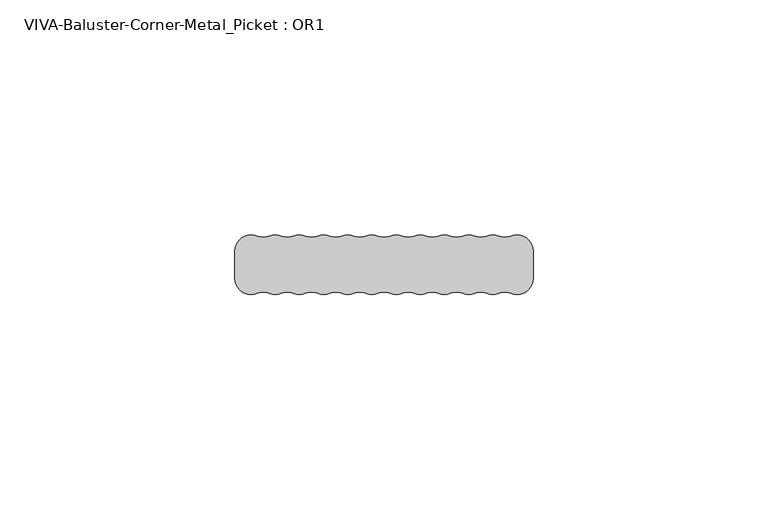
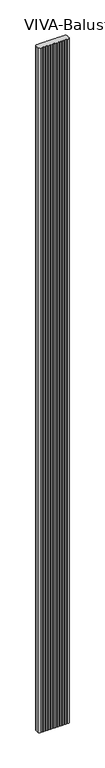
"""IFC4 building model written with IfcOpenShell, lengths in millimetres: railing geometry, VIVA-Baluster-Corner-Metal_Picket : OR1."""

from ifc_helpers import new_model, si_unit, frame, origin, place, context, project, spatial, polyline, circle_curve, source, transform, mapped, element, save
from ifc_brep_helpers import plane_surface, cylinder_surface, revolved_surface, advanced_brep


def viva_baluster_corner_metal_picket_or1_06276dca(model_context):
    return source(origin(), model_context, "Body", "AdvancedBrep", [
        advanced_brep(
        [(51.9173652, 187.4424232, 1219.2), (49.3434933, 187.4424232, 1219.2), (46.7696213, 187.4424232, 1219.2), (44.1957493, 187.4424232, 1219.2), (41.6218774, 187.4424232, 1219.2), (39.0480054, 187.4424232, 1219.2), (36.4741335, 187.4424232, 1219.2), (33.9002615, 187.4424232, 1219.2), (31.3263895, 187.4424232, 1219.2), (28.7525176, 187.4424232, 1219.2), (26.1786456, 187.4424232, 1219.2), (23.6047737, 187.4424232, 1219.2), (21.0309017, 187.4424232, 1219.2), (18.4570297, 187.4424232, 1219.2), (15.8831578, 187.4424232, 1219.2), (13.3092858, 187.4424232, 1219.2), (10.7354138, 187.4424232, 1219.2), (8.1615419, 187.4424232, 1219.2), (5.5876699, 187.4424232, 1219.2), (3.013798, 187.4424232, 1219.2), (0.439926, 187.4424232, 1219.2), (-2.133946, 187.4424232, 1219.2), (-6.8582904, 184.2550148, 1219.2), (-6.8582904, 178.4298317, 1219.2), (-2.133946, 175.2424232, 1219.2), (0.439926, 175.2424232, 1219.2), (3.013798, 175.2424232, 1219.2), (5.5876699, 175.2424232, 1219.2), (8.1615419, 175.2424232, 1219.2), (10.7354139, 175.2424232, 1219.2), (13.3092858, 175.2424232, 1219.2), (15.8831578, 175.2424232, 1219.2), (18.4570297, 175.2424232, 1219.2), (21.0309017, 175.2424232, 1219.2), (23.6047737, 175.2424232, 1219.2), (26.1786456, 175.2424232, 1219.2), (28.7525176, 175.2424232, 1219.2), (31.3263895, 175.2424232, 1219.2), (33.9002615, 175.2424232, 1219.2), (36.4741335, 175.2424232, 1219.2), (39.0480054, 175.2424232, 1219.2), (41.6218774, 175.2424232, 1219.2), (44.1957493, 175.2424232, 1219.2), (46.7696213, 175.2424232, 1219.2), (49.3434933, 175.2424232, 1219.2), (51.9173652, 175.2424232, 1219.2), (56.6417096, 178.4298317, 1219.2), (56.6417096, 184.2550148, 1219.2), (51.9173652, 187.4424232, -245.8945017), (56.6417096, 184.2550148, -245.8945017), (56.6417096, 178.4298317, -245.8945017), (51.9173652, 175.2424232, -245.8945017), (49.3434933, 175.2424232, -245.8945017), (46.7696213, 175.2424232, -245.8945017), (44.1957493, 175.2424232, -245.8945017), (41.6218774, 175.2424232, -245.8945017), (39.0480054, 175.2424232, -245.8945017), (36.4741335, 175.2424232, -245.8945017), (33.9002615, 175.2424232, -245.8945017), (31.3263895, 175.2424232, -245.8945017), (28.7525176, 175.2424232, -245.8945017), (26.1786456, 175.2424232, -245.8945017), (23.6047737, 175.2424232, -245.8945017), (21.0309017, 175.2424232, -245.8945017), (18.4570297, 175.2424232, -245.8945017), (15.8831578, 175.2424232, -245.8945017), (13.3092858, 175.2424232, -245.8945017), (10.7354138, 175.2424232, -245.8945017), (8.1615419, 175.2424232, -245.8945017), (5.5876699, 175.2424232, -245.8945017), (3.013798, 175.2424232, -245.8945017), (0.439926, 175.2424232, -245.8945017), (-2.133946, 175.2424232, -245.8945017), (-6.8582904, 178.4298317, -245.8945017), (-6.8582904, 184.2550148, -245.8945017), (-2.1339459, 187.4424232, -245.8945017), (0.439926, 187.4424232, -245.8945017), (3.013798, 187.4424232, -245.8945017), (5.5876699, 187.4424232, -245.8945017), (8.1615419, 187.4424232, -245.8945017), (10.7354139, 187.4424232, -245.8945017), (13.3092858, 187.4424232, -245.8945017), (15.8831578, 187.4424232, -245.8945017), (18.4570297, 187.4424232, -245.8945017), (21.0309017, 187.4424232, -245.8945017), (23.6047737, 187.4424232, -245.8945017), (26.1786456, 187.4424232, -245.8945017), (28.7525176, 187.4424232, -245.8945017), (31.3263895, 187.4424232, -245.8945017), (33.9002615, 187.4424232, -245.8945017), (36.4741335, 187.4424232, -245.8945017), (39.0480054, 187.4424232, -245.8945017), (41.6218774, 187.4424232, -245.8945017), (44.1957493, 187.4424232, -245.8945017), (46.7696213, 187.4424232, -245.8945017), (49.3434933, 187.4424232, -245.8945017)],
        [
            (0, 1, circle_curve(frame((50.6304292, 190.6298317, 1219.2), z_axis=(0.0, 0.0, -1.0), x_axis=(1.0, 0.0, 0.0)), 3.4374084)),
            (1, 2, circle_curve(frame((48.0565573, 184.2550148, 1219.2), z_axis=(0.0, 0.0, 1.0), x_axis=(1.0, 0.0, 0.0)), 3.4374084)),
            (2, 3, circle_curve(frame((45.4826853, 190.6298317, 1219.2), z_axis=(0.0, 0.0, -1.0), x_axis=(1.0, 0.0, 0.0)), 3.4374084)),
            (3, 4, circle_curve(frame((42.9088134, 184.2550148, 1219.2), z_axis=(0.0, 0.0, 1.0), x_axis=(1.0, 0.0, 0.0)), 3.4374084)),
            (4, 5, circle_curve(frame((40.3349414, 190.6298317, 1219.2), z_axis=(0.0, 0.0, -1.0), x_axis=(1.0, 0.0, 0.0)), 3.4374084)),
            (5, 6, circle_curve(frame((37.7610694, 184.2550148, 1219.2), z_axis=(0.0, 0.0, 1.0), x_axis=(1.0, 0.0, 0.0)), 3.4374084)),
            (6, 7, circle_curve(frame((35.1871975, 190.6298317, 1219.2), z_axis=(0.0, 0.0, -1.0), x_axis=(1.0, 0.0, 0.0)), 3.4374084)),
            (7, 8, circle_curve(frame((32.6133255, 184.2550148, 1219.2), z_axis=(0.0, 0.0, 1.0), x_axis=(1.0, 0.0, 0.0)), 3.4374084)),
            (8, 9, circle_curve(frame((30.0394536, 190.6298317, 1219.2), z_axis=(0.0, 0.0, -1.0), x_axis=(1.0, 0.0, 0.0)), 3.4374084)),
            (9, 10, circle_curve(frame((27.4655816, 184.2550148, 1219.2), z_axis=(0.0, 0.0, 1.0), x_axis=(1.0, 0.0, 0.0)), 3.4374084)),
            (10, 11, circle_curve(frame((24.8917096, 190.6298317, 1219.2), z_axis=(0.0, 0.0, -1.0), x_axis=(1.0, 0.0, 0.0)), 3.4374084)),
            (11, 12, circle_curve(frame((22.3178377, 184.2550148, 1219.2), z_axis=(0.0, 0.0, 1.0), x_axis=(1.0, 0.0, 0.0)), 3.4374084)),
            (12, 13, circle_curve(frame((19.7439657, 190.6298317, 1219.2), z_axis=(0.0, 0.0, -1.0), x_axis=(1.0, 0.0, 0.0)), 3.4374084)),
            (13, 14, circle_curve(frame((17.1700938, 184.2550148, 1219.2), z_axis=(0.0, 0.0, 1.0), x_axis=(1.0, 0.0, 0.0)), 3.4374084)),
            (14, 15, circle_curve(frame((14.5962218, 190.6298317, 1219.2), z_axis=(0.0, 0.0, -1.0), x_axis=(1.0, 0.0, 0.0)), 3.4374084)),
            (15, 16, circle_curve(frame((12.0223498, 184.2550148, 1219.2), z_axis=(0.0, 0.0, 1.0), x_axis=(1.0, 0.0, 0.0)), 3.4374084)),
            (16, 17, circle_curve(frame((9.4484779, 190.6298316, 1219.2), z_axis=(0.0, 0.0, -1.0), x_axis=(1.0, 0.0, 0.0)), 3.4374084)),
            (17, 18, circle_curve(frame((6.8746059, 184.2550148, 1219.2), z_axis=(0.0, 0.0, 1.0), x_axis=(1.0, 0.0, 0.0)), 3.4374084)),
            (18, 19, circle_curve(frame((4.3007339, 190.6298316, 1219.2), z_axis=(0.0, 0.0, -1.0), x_axis=(1.0, 0.0, 0.0)), 3.4374084)),
            (19, 20, circle_curve(frame((1.726862, 184.2550148, 1219.2), z_axis=(0.0, 0.0, 1.0), x_axis=(1.0, 0.0, 0.0)), 3.4374084)),
            (20, 21, circle_curve(frame((-0.84701, 190.6298316, 1219.2), z_axis=(0.0, 0.0, -1.0), x_axis=(1.0, 0.0, 0.0)), 3.4374084)),
            (21, 22, circle_curve(frame((-3.4208819, 184.2550148, 1219.2), z_axis=(0.0, 0.0, 1.0), x_axis=(1.0, 0.0, 0.0)), 3.4374084)),
            (22, 23),
            (23, 24, circle_curve(frame((-3.4208819, 178.4298317, 1219.2), z_axis=(0.0, 0.0, 1.0), x_axis=(1.0, 0.0, 0.0)), 3.4374084)),
            (24, 25, circle_curve(frame((-0.84701, 172.0550148, 1219.2), z_axis=(0.0, 0.0, -1.0), x_axis=(1.0, 0.0, 0.0)), 3.4374084)),
            (25, 26, circle_curve(frame((1.726862, 178.4298317, 1219.2), z_axis=(0.0, 0.0, 1.0), x_axis=(1.0, 0.0, 0.0)), 3.4374084)),
            (26, 27, circle_curve(frame((4.3007339, 172.0550148, 1219.2), z_axis=(0.0, 0.0, -1.0), x_axis=(1.0, 0.0, 0.0)), 3.4374084)),
            (27, 28, circle_curve(frame((6.8746059, 178.4298317, 1219.2), z_axis=(0.0, 0.0, 1.0), x_axis=(1.0, 0.0, 0.0)), 3.4374084)),
            (28, 29, circle_curve(frame((9.4484779, 172.0550148, 1219.2), z_axis=(0.0, 0.0, -1.0), x_axis=(1.0, 0.0, 0.0)), 3.4374084)),
            (29, 30, circle_curve(frame((12.0223498, 178.4298317, 1219.2), z_axis=(0.0, 0.0, 1.0), x_axis=(1.0, 0.0, 0.0)), 3.4374084)),
            (30, 31, circle_curve(frame((14.5962218, 172.0550148, 1219.2), z_axis=(0.0, 0.0, -1.0), x_axis=(1.0, 0.0, 0.0)), 3.4374084)),
            (31, 32, circle_curve(frame((17.1700938, 178.4298317, 1219.2), z_axis=(0.0, 0.0, 1.0), x_axis=(1.0, 0.0, 0.0)), 3.4374084)),
            (32, 33, circle_curve(frame((19.7439657, 172.0550148, 1219.2), z_axis=(0.0, 0.0, -1.0), x_axis=(1.0, 0.0, 0.0)), 3.4374084)),
            (33, 34, circle_curve(frame((22.3178377, 178.4298317, 1219.2), z_axis=(0.0, 0.0, 1.0), x_axis=(1.0, 0.0, 0.0)), 3.4374084)),
            (34, 35, circle_curve(frame((24.8917096, 172.0550148, 1219.2), z_axis=(0.0, 0.0, -1.0), x_axis=(1.0, 0.0, 0.0)), 3.4374084)),
            (35, 36, circle_curve(frame((27.4655816, 178.4298317, 1219.2), z_axis=(0.0, 0.0, 1.0), x_axis=(1.0, 0.0, 0.0)), 3.4374084)),
            (36, 37, circle_curve(frame((30.0394536, 172.0550148, 1219.2), z_axis=(0.0, 0.0, -1.0), x_axis=(1.0, 0.0, 0.0)), 3.4374084)),
            (37, 38, circle_curve(frame((32.6133255, 178.4298317, 1219.2), z_axis=(0.0, 0.0, 1.0), x_axis=(1.0, 0.0, 0.0)), 3.4374084)),
            (38, 39, circle_curve(frame((35.1871975, 172.0550148, 1219.2), z_axis=(0.0, 0.0, -1.0), x_axis=(1.0, 0.0, 0.0)), 3.4374084)),
            (39, 40, circle_curve(frame((37.7610694, 178.4298317, 1219.2), z_axis=(0.0, 0.0, 1.0), x_axis=(1.0, 0.0, 0.0)), 3.4374084)),
            (40, 41, circle_curve(frame((40.3349414, 172.0550148, 1219.2), z_axis=(0.0, 0.0, -1.0), x_axis=(1.0, 0.0, 0.0)), 3.4374084)),
            (41, 42, circle_curve(frame((42.9088134, 178.4298317, 1219.2), z_axis=(0.0, 0.0, 1.0), x_axis=(1.0, 0.0, 0.0)), 3.4374084)),
            (42, 43, circle_curve(frame((45.4826853, 172.0550148, 1219.2), z_axis=(0.0, 0.0, -1.0), x_axis=(1.0, 0.0, 0.0)), 3.4374084)),
            (43, 44, circle_curve(frame((48.0565573, 178.4298317, 1219.2), z_axis=(0.0, 0.0, 1.0), x_axis=(1.0, 0.0, 0.0)), 3.4374084)),
            (44, 45, circle_curve(frame((50.6304292, 172.0550148, 1219.2), z_axis=(0.0, 0.0, -1.0), x_axis=(1.0, 0.0, 0.0)), 3.4374084)),
            (45, 46, circle_curve(frame((53.2043012, 178.4298317, 1219.2), z_axis=(0.0, 0.0, 1.0), x_axis=(1.0, 0.0, 0.0)), 3.4374084)),
            (46, 47),
            (47, 0, circle_curve(frame((53.2043012, 184.2550148, 1219.2), z_axis=(0.0, 0.0, 1.0), x_axis=(1.0, 0.0, 0.0)), 3.4374084)),
            (48, 49, circle_curve(frame((53.2043012, 184.2550148, -245.8945017), z_axis=(0.0, 0.0, -1.0), x_axis=(1.0, 0.0, 0.0)), 3.4374084)),
            (49, 50),
            (50, 51, circle_curve(frame((53.2043012, 178.4298317, -245.8945017), z_axis=(0.0, 0.0, -1.0), x_axis=(1.0, 0.0, 0.0)), 3.4374084)),
            (51, 52, circle_curve(frame((50.6304292, 172.0550148, -245.8945017), z_axis=(0.0, 0.0, 1.0), x_axis=(1.0, 0.0, 0.0)), 3.4374084)),
            (52, 53, circle_curve(frame((48.0565573, 178.4298317, -245.8945017), z_axis=(0.0, 0.0, -1.0), x_axis=(1.0, 0.0, 0.0)), 3.4374084)),
            (53, 54, circle_curve(frame((45.4826853, 172.0550148, -245.8945017), z_axis=(0.0, 0.0, 1.0), x_axis=(1.0, 0.0, 0.0)), 3.4374084)),
            (54, 55, circle_curve(frame((42.9088134, 178.4298317, -245.8945017), z_axis=(0.0, 0.0, -1.0), x_axis=(1.0, 0.0, 0.0)), 3.4374084)),
            (55, 56, circle_curve(frame((40.3349414, 172.0550148, -245.8945017), z_axis=(0.0, 0.0, 1.0), x_axis=(1.0, 0.0, 0.0)), 3.4374084)),
            (56, 57, circle_curve(frame((37.7610694, 178.4298317, -245.8945017), z_axis=(0.0, 0.0, -1.0), x_axis=(1.0, 0.0, 0.0)), 3.4374084)),
            (57, 58, circle_curve(frame((35.1871975, 172.0550148, -245.8945017), z_axis=(0.0, 0.0, 1.0), x_axis=(1.0, 0.0, 0.0)), 3.4374084)),
            (58, 59, circle_curve(frame((32.6133255, 178.4298317, -245.8945017), z_axis=(0.0, 0.0, -1.0), x_axis=(1.0, 0.0, 0.0)), 3.4374084)),
            (59, 60, circle_curve(frame((30.0394536, 172.0550148, -245.8945017), z_axis=(0.0, 0.0, 1.0), x_axis=(1.0, 0.0, 0.0)), 3.4374084)),
            (60, 61, circle_curve(frame((27.4655816, 178.4298317, -245.8945017), z_axis=(0.0, 0.0, -1.0), x_axis=(1.0, 0.0, 0.0)), 3.4374084)),
            (61, 62, circle_curve(frame((24.8917096, 172.0550148, -245.8945017), z_axis=(0.0, 0.0, 1.0), x_axis=(1.0, 0.0, 0.0)), 3.4374084)),
            (62, 63, circle_curve(frame((22.3178377, 178.4298317, -245.8945017), z_axis=(0.0, 0.0, -1.0), x_axis=(1.0, 0.0, 0.0)), 3.4374084)),
            (63, 64, circle_curve(frame((19.7439657, 172.0550148, -245.8945017), z_axis=(0.0, 0.0, 1.0), x_axis=(1.0, 0.0, 0.0)), 3.4374084)),
            (64, 65, circle_curve(frame((17.1700938, 178.4298317, -245.8945017), z_axis=(0.0, 0.0, -1.0), x_axis=(1.0, 0.0, 0.0)), 3.4374084)),
            (65, 66, circle_curve(frame((14.5962218, 172.0550148, -245.8945017), z_axis=(0.0, 0.0, 1.0), x_axis=(1.0, 0.0, 0.0)), 3.4374084)),
            (66, 67, circle_curve(frame((12.0223498, 178.4298317, -245.8945017), z_axis=(0.0, 0.0, -1.0), x_axis=(1.0, 0.0, 0.0)), 3.4374084)),
            (67, 68, circle_curve(frame((9.4484779, 172.0550148, -245.8945017), z_axis=(0.0, 0.0, 1.0), x_axis=(1.0, 0.0, 0.0)), 3.4374084)),
            (68, 69, circle_curve(frame((6.8746059, 178.4298317, -245.8945017), z_axis=(0.0, 0.0, -1.0), x_axis=(1.0, 0.0, 0.0)), 3.4374084)),
            (69, 70, circle_curve(frame((4.3007339, 172.0550148, -245.8945017), z_axis=(0.0, 0.0, 1.0), x_axis=(1.0, 0.0, 0.0)), 3.4374084)),
            (70, 71, circle_curve(frame((1.726862, 178.4298317, -245.8945017), z_axis=(0.0, 0.0, -1.0), x_axis=(1.0, 0.0, 0.0)), 3.4374084)),
            (71, 72, circle_curve(frame((-0.84701, 172.0550148, -245.8945017), z_axis=(0.0, 0.0, 1.0), x_axis=(1.0, 0.0, 0.0)), 3.4374084)),
            (72, 73, circle_curve(frame((-3.4208819, 178.4298317, -245.8945017), z_axis=(0.0, 0.0, -1.0), x_axis=(1.0, 0.0, 0.0)), 3.4374084)),
            (73, 74),
            (74, 75, circle_curve(frame((-3.4208819, 184.2550148, -245.8945017), z_axis=(0.0, 0.0, -1.0), x_axis=(1.0, 0.0, 0.0)), 3.4374084)),
            (75, 76, circle_curve(frame((-0.84701, 190.6298316, -245.8945017), z_axis=(0.0, 0.0, 1.0), x_axis=(1.0, 0.0, 0.0)), 3.4374084)),
            (76, 77, circle_curve(frame((1.726862, 184.2550148, -245.8945017), z_axis=(0.0, 0.0, -1.0), x_axis=(1.0, 0.0, 0.0)), 3.4374084)),
            (77, 78, circle_curve(frame((4.3007339, 190.6298316, -245.8945017), z_axis=(0.0, 0.0, 1.0), x_axis=(1.0, 0.0, 0.0)), 3.4374084)),
            (78, 79, circle_curve(frame((6.8746059, 184.2550148, -245.8945017), z_axis=(0.0, 0.0, -1.0), x_axis=(1.0, 0.0, 0.0)), 3.4374084)),
            (79, 80, circle_curve(frame((9.4484779, 190.6298316, -245.8945017), z_axis=(0.0, 0.0, 1.0), x_axis=(1.0, 0.0, 0.0)), 3.4374084)),
            (80, 81, circle_curve(frame((12.0223498, 184.2550148, -245.8945017), z_axis=(0.0, 0.0, -1.0), x_axis=(1.0, 0.0, 0.0)), 3.4374084)),
            (81, 82, circle_curve(frame((14.5962218, 190.6298317, -245.8945017), z_axis=(0.0, 0.0, 1.0), x_axis=(1.0, 0.0, 0.0)), 3.4374084)),
            (82, 83, circle_curve(frame((17.1700938, 184.2550148, -245.8945017), z_axis=(0.0, 0.0, -1.0), x_axis=(1.0, 0.0, 0.0)), 3.4374084)),
            (83, 84, circle_curve(frame((19.7439657, 190.6298317, -245.8945017), z_axis=(0.0, 0.0, 1.0), x_axis=(1.0, 0.0, 0.0)), 3.4374084)),
            (84, 85, circle_curve(frame((22.3178377, 184.2550148, -245.8945017), z_axis=(0.0, 0.0, -1.0), x_axis=(1.0, 0.0, 0.0)), 3.4374084)),
            (85, 86, circle_curve(frame((24.8917096, 190.6298317, -245.8945017), z_axis=(0.0, 0.0, 1.0), x_axis=(1.0, 0.0, 0.0)), 3.4374084)),
            (86, 87, circle_curve(frame((27.4655816, 184.2550148, -245.8945017), z_axis=(0.0, 0.0, -1.0), x_axis=(1.0, 0.0, 0.0)), 3.4374084)),
            (87, 88, circle_curve(frame((30.0394536, 190.6298317, -245.8945017), z_axis=(0.0, 0.0, 1.0), x_axis=(1.0, 0.0, 0.0)), 3.4374084)),
            (88, 89, circle_curve(frame((32.6133255, 184.2550148, -245.8945017), z_axis=(0.0, 0.0, -1.0), x_axis=(1.0, 0.0, 0.0)), 3.4374084)),
            (89, 90, circle_curve(frame((35.1871975, 190.6298317, -245.8945017), z_axis=(0.0, 0.0, 1.0), x_axis=(1.0, 0.0, 0.0)), 3.4374084)),
            (90, 91, circle_curve(frame((37.7610694, 184.2550148, -245.8945017), z_axis=(0.0, 0.0, -1.0), x_axis=(1.0, 0.0, 0.0)), 3.4374084)),
            (91, 92, circle_curve(frame((40.3349414, 190.6298317, -245.8945017), z_axis=(0.0, 0.0, 1.0), x_axis=(1.0, 0.0, 0.0)), 3.4374084)),
            (92, 93, circle_curve(frame((42.9088134, 184.2550148, -245.8945017), z_axis=(0.0, 0.0, -1.0), x_axis=(1.0, 0.0, 0.0)), 3.4374084)),
            (93, 94, circle_curve(frame((45.4826853, 190.6298317, -245.8945017), z_axis=(0.0, 0.0, 1.0), x_axis=(1.0, 0.0, 0.0)), 3.4374084)),
            (94, 95, circle_curve(frame((48.0565573, 184.2550148, -245.8945017), z_axis=(0.0, 0.0, -1.0), x_axis=(1.0, 0.0, 0.0)), 3.4374084)),
            (95, 48, circle_curve(frame((50.6304292, 190.6298317, -245.8945017), z_axis=(0.0, 0.0, 1.0), x_axis=(1.0, 0.0, 0.0)), 3.4374084)),
            (0, 48),
            (95, 1),
            (94, 2),
            (93, 3),
            (92, 4),
            (91, 5),
            (90, 6),
            (89, 7),
            (88, 8),
            (87, 9),
            (86, 10),
            (85, 11),
            (84, 12),
            (83, 13),
            (82, 14),
            (81, 15),
            (80, 16),
            (79, 17),
            (78, 18),
            (77, 19),
            (76, 20),
            (75, 21),
            (74, 22),
            (73, 23),
            (72, 24),
            (71, 25),
            (70, 26),
            (69, 27),
            (68, 28),
            (67, 29),
            (66, 30),
            (65, 31),
            (64, 32),
            (63, 33),
            (62, 34),
            (61, 35),
            (60, 36),
            (59, 37),
            (58, 38),
            (57, 39),
            (56, 40),
            (55, 41),
            (54, 42),
            (53, 43),
            (52, 44),
            (51, 45),
            (50, 46),
            (49, 47),
        ],
        [
            plane_surface(frame((54.0678377, 190.6298317, 1219.2), z_axis=(0.0, 0.0, 1.0), x_axis=(0.0, -1.0, 0.0))),
            plane_surface(frame((54.0678377, 190.6298317, -245.8945017), z_axis=(0.0, 0.0, -1.0), x_axis=(0.0, 1.0, 0.0))),
            revolved_surface(polyline([(54.067837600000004, 190.6298317, -245.8945017), (54.067837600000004, 190.6298317, 1219.2)]), (50.6304292, 190.6298317, -245.8945017), (0.0, 0.0, -1.0)),
            cylinder_surface(frame((48.0565573, 184.2550148, -245.8945017), z_axis=(0.0, 0.0, 1.0), x_axis=(1.0, 0.0, 0.0)), 3.4374084),
            revolved_surface(polyline([(48.9200937, 190.6298317, -245.8945017), (48.9200937, 190.6298317, 1219.2)]), (45.4826853, 190.6298317, -245.8945017), (0.0, 0.0, -1.0)),
            cylinder_surface(frame((42.9088134, 184.2550148, -245.8945017), z_axis=(0.0, 0.0, 1.0), x_axis=(1.0, 0.0, 0.0)), 3.4374084),
            revolved_surface(polyline([(43.7723498, 190.6298317, -245.8945017), (43.7723498, 190.6298317, 1219.2)]), (40.3349414, 190.6298317, -245.8945017), (0.0, 0.0, -1.0)),
            cylinder_surface(frame((37.7610694, 184.2550148, -245.8945017), z_axis=(0.0, 0.0, 1.0), x_axis=(1.0, 0.0, 0.0)), 3.4374084),
            revolved_surface(polyline([(38.624605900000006, 190.6298317, -245.8945017), (38.624605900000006, 190.6298317, 1219.2)]), (35.1871975, 190.6298317, -245.8945017), (0.0, 0.0, -1.0)),
            cylinder_surface(frame((32.6133255, 184.2550148, -245.8945017), z_axis=(0.0, 0.0, 1.0), x_axis=(1.0, 0.0, 0.0)), 3.4374084),
            revolved_surface(polyline([(33.476862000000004, 190.6298317, -245.8945017), (33.476862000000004, 190.6298317, 1219.2)]), (30.0394536, 190.6298317, -245.8945017), (0.0, 0.0, -1.0)),
            cylinder_surface(frame((27.4655816, 184.2550148, -245.8945017), z_axis=(0.0, 0.0, 1.0), x_axis=(1.0, 0.0, 0.0)), 3.4374084),
            revolved_surface(polyline([(28.329117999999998, 190.6298317, -245.8945017), (28.329117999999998, 190.6298317, 1219.2)]), (24.8917096, 190.6298317, -245.8945017), (0.0, 0.0, -1.0)),
            cylinder_surface(frame((22.3178377, 184.2550148, -245.8945017), z_axis=(0.0, 0.0, 1.0), x_axis=(1.0, 0.0, 0.0)), 3.4374084),
            revolved_surface(polyline([(23.1813741, 190.6298317, -245.8945017), (23.1813741, 190.6298317, 1219.2)]), (19.7439657, 190.6298317, -245.8945017), (0.0, 0.0, -1.0)),
            cylinder_surface(frame((17.1700938, 184.2550148, -245.8945017), z_axis=(0.0, 0.0, 1.0), x_axis=(1.0, 0.0, 0.0)), 3.4374084),
            revolved_surface(polyline([(18.0336302, 190.6298317, -245.8945017), (18.0336302, 190.6298317, 1219.2)]), (14.5962218, 190.6298317, -245.8945017), (0.0, 0.0, -1.0)),
            cylinder_surface(frame((12.0223498, 184.2550148, -245.8945017), z_axis=(0.0, 0.0, 1.0), x_axis=(1.0, 0.0, 0.0)), 3.4374084),
            revolved_surface(polyline([(12.8858863, 190.6298316, -245.8945017), (12.8858863, 190.6298316, 1219.2)]), (9.4484779, 190.6298316, -245.8945017), (0.0, 0.0, -1.0)),
            cylinder_surface(frame((6.8746059, 184.2550148, -245.8945017), z_axis=(0.0, 0.0, 1.0), x_axis=(1.0, 0.0, 0.0)), 3.4374084),
            revolved_surface(polyline([(7.7381423, 190.6298316, -245.8945017), (7.7381423, 190.6298316, 1219.2)]), (4.3007339, 190.6298316, -245.8945017), (0.0, 0.0, -1.0)),
            cylinder_surface(frame((1.726862, 184.2550148, -245.8945017), z_axis=(0.0, 0.0, 1.0), x_axis=(1.0, 0.0, 0.0)), 3.4374084),
            revolved_surface(polyline([(2.5903983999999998, 190.6298316, -245.8945017), (2.5903983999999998, 190.6298316, 1219.2)]), (-0.84701, 190.6298316, -245.8945017), (0.0, 0.0, -1.0)),
            cylinder_surface(frame((-3.4208819, 184.2550148, -245.8945017), z_axis=(0.0, 0.0, 1.0), x_axis=(1.0, 0.0, 0.0)), 3.4374084),
            plane_surface(frame((-6.8582904, 184.2550148, 1219.2), z_axis=(-1.0, -1.9208995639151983e-11, 0.0), x_axis=(0.0, 0.0, -1.0))),
            cylinder_surface(frame((-3.4208819, 178.4298317, -245.8945017), z_axis=(0.0, 0.0, 1.0), x_axis=(1.0, 0.0, 0.0)), 3.4374084),
            revolved_surface(polyline([(2.5903983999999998, 172.0550148, -245.8945017), (2.5903983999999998, 172.0550148, 1219.2)]), (-0.84701, 172.0550148, -245.8945017), (0.0, 0.0, -1.0)),
            cylinder_surface(frame((1.726862, 178.4298317, -245.8945017), z_axis=(0.0, 0.0, 1.0), x_axis=(1.0, 0.0, 0.0)), 3.4374084),
            revolved_surface(polyline([(7.7381423, 172.0550148, -245.8945017), (7.7381423, 172.0550148, 1219.2)]), (4.3007339, 172.0550148, -245.8945017), (0.0, 0.0, -1.0)),
            cylinder_surface(frame((6.8746059, 178.4298317, -245.8945017), z_axis=(0.0, 0.0, 1.0), x_axis=(1.0, 0.0, 0.0)), 3.4374084),
            revolved_surface(polyline([(12.8858863, 172.0550148, -245.8945017), (12.8858863, 172.0550148, 1219.2)]), (9.4484779, 172.0550148, -245.8945017), (0.0, 0.0, -1.0)),
            cylinder_surface(frame((12.0223498, 178.4298317, -245.8945017), z_axis=(0.0, 0.0, 1.0), x_axis=(1.0, 0.0, 0.0)), 3.4374084),
            revolved_surface(polyline([(18.0336302, 172.0550148, -245.8945017), (18.0336302, 172.0550148, 1219.2)]), (14.5962218, 172.0550148, -245.8945017), (0.0, 0.0, -1.0)),
            cylinder_surface(frame((17.1700938, 178.4298317, -245.8945017), z_axis=(0.0, 0.0, 1.0), x_axis=(1.0, 0.0, 0.0)), 3.4374084),
            revolved_surface(polyline([(23.1813741, 172.0550148, -245.8945017), (23.1813741, 172.0550148, 1219.2)]), (19.7439657, 172.0550148, -245.8945017), (0.0, 0.0, -1.0)),
            cylinder_surface(frame((22.3178377, 178.4298317, -245.8945017), z_axis=(0.0, 0.0, 1.0), x_axis=(1.0, 0.0, 0.0)), 3.4374084),
            revolved_surface(polyline([(28.329117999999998, 172.0550148, -245.8945017), (28.329117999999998, 172.0550148, 1219.2)]), (24.8917096, 172.0550148, -245.8945017), (0.0, 0.0, -1.0)),
            cylinder_surface(frame((27.4655816, 178.4298317, -245.8945017), z_axis=(0.0, 0.0, 1.0), x_axis=(1.0, 0.0, 0.0)), 3.4374084),
            revolved_surface(polyline([(33.476862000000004, 172.0550148, -245.8945017), (33.476862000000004, 172.0550148, 1219.2)]), (30.0394536, 172.0550148, -245.8945017), (0.0, 0.0, -1.0)),
            cylinder_surface(frame((32.6133255, 178.4298317, -245.8945017), z_axis=(0.0, 0.0, 1.0), x_axis=(1.0, 0.0, 0.0)), 3.4374084),
            revolved_surface(polyline([(38.624605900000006, 172.0550148, -245.8945017), (38.624605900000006, 172.0550148, 1219.2)]), (35.1871975, 172.0550148, -245.8945017), (0.0, 0.0, -1.0)),
            cylinder_surface(frame((37.7610694, 178.4298317, -245.8945017), z_axis=(0.0, 0.0, 1.0), x_axis=(1.0, 0.0, 0.0)), 3.4374084),
            revolved_surface(polyline([(43.7723498, 172.0550148, -245.8945017), (43.7723498, 172.0550148, 1219.2)]), (40.3349414, 172.0550148, -245.8945017), (0.0, 0.0, -1.0)),
            cylinder_surface(frame((42.9088134, 178.4298317, -245.8945017), z_axis=(0.0, 0.0, 1.0), x_axis=(1.0, 0.0, 0.0)), 3.4374084),
            revolved_surface(polyline([(48.9200937, 172.0550148, -245.8945017), (48.9200937, 172.0550148, 1219.2)]), (45.4826853, 172.0550148, -245.8945017), (0.0, 0.0, -1.0)),
            cylinder_surface(frame((48.0565573, 178.4298317, -245.8945017), z_axis=(0.0, 0.0, 1.0), x_axis=(1.0, 0.0, 0.0)), 3.4374084),
            revolved_surface(polyline([(54.067837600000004, 172.0550148, -245.8945017), (54.067837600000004, 172.0550148, 1219.2)]), (50.6304292, 172.0550148, -245.8945017), (0.0, 0.0, -1.0)),
            cylinder_surface(frame((53.2043012, 178.4298317, -245.8945017), z_axis=(0.0, 0.0, 1.0), x_axis=(1.0, 0.0, 0.0)), 3.4374084),
            plane_surface(frame((56.6417096, 178.4298317, 1219.2), z_axis=(1.0, -1.990954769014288e-11, 0.0), x_axis=(0.0, 0.0, -1.0))),
            cylinder_surface(frame((53.2043012, 184.2550148, -245.8945017), z_axis=(0.0, 0.0, 1.0), x_axis=(1.0, 0.0, 0.0)), 3.4374084),
        ],
        [
            (0, [[1, 2, 3, 4, 5, 6, 7, 8, 9, 10, 11, 12, 13, 14, 15, 16, 17, 18, 19, 20, 21, 22, 23, 24, 25, 26, 27, 28, 29, 30, 31, 32, 33, 34, 35, 36, 37, 38, 39, 40, 41, 42, 43, 44, 45, 46, 47, 48]]),
            (1, [[49, 50, 51, 52, 53, 54, 55, 56, 57, 58, 59, 60, 61, 62, 63, 64, 65, 66, 67, 68, 69, 70, 71, 72, 73, 74, 75, 76, 77, 78, 79, 80, 81, 82, 83, 84, 85, 86, 87, 88, 89, 90, 91, 92, 93, 94, 95, 96]]),
            (2, [[-1, 97, -96, 98]]),
            (3, [[-2, -98, -95, 99]]),
            (4, [[-3, -99, -94, 100]]),
            (5, [[-4, -100, -93, 101]]),
            (6, [[-5, -101, -92, 102]]),
            (7, [[-6, -102, -91, 103]]),
            (8, [[-7, -103, -90, 104]]),
            (9, [[-8, -104, -89, 105]]),
            (10, [[-9, -105, -88, 106]]),
            (11, [[-10, -106, -87, 107]]),
            (12, [[-11, -107, -86, 108]]),
            (13, [[-12, -108, -85, 109]]),
            (14, [[-13, -109, -84, 110]]),
            (15, [[-14, -110, -83, 111]]),
            (16, [[-15, -111, -82, 112]]),
            (17, [[-16, -112, -81, 113]]),
            (18, [[-17, -113, -80, 114]]),
            (19, [[-18, -114, -79, 115]]),
            (20, [[-19, -115, -78, 116]]),
            (21, [[-20, -116, -77, 117]]),
            (22, [[-21, -117, -76, 118]]),
            (23, [[-22, -118, -75, 119]]),
            (24, [[-23, -119, -74, 120]]),
            (25, [[-24, -120, -73, 121]]),
            (26, [[-25, -121, -72, 122]]),
            (27, [[-26, -122, -71, 123]]),
            (28, [[-27, -123, -70, 124]]),
            (29, [[-28, -124, -69, 125]]),
            (30, [[-29, -125, -68, 126]]),
            (31, [[-30, -126, -67, 127]]),
            (32, [[-31, -127, -66, 128]]),
            (33, [[-32, -128, -65, 129]]),
            (34, [[-33, -129, -64, 130]]),
            (35, [[-34, -130, -63, 131]]),
            (36, [[-35, -131, -62, 132]]),
            (37, [[-36, -132, -61, 133]]),
            (38, [[-37, -133, -60, 134]]),
            (39, [[-38, -134, -59, 135]]),
            (40, [[-39, -135, -58, 136]]),
            (41, [[-40, -136, -57, 137]]),
            (42, [[-41, -137, -56, 138]]),
            (43, [[-42, -138, -55, 139]]),
            (44, [[-43, -139, -54, 140]]),
            (45, [[-44, -140, -53, 141]]),
            (46, [[-45, -141, -52, 142]]),
            (47, [[-46, -142, -51, 143]]),
            (48, [[-47, -143, -50, 144]]),
            (49, [[-48, -144, -49, -97]]),
        ],
    ),
    ])


if __name__ == "__main__":
    model = new_model("IFC4")
    model_context = context("Model", 3, world=origin())
    ifc_project = project(units=[si_unit("LENGTHUNIT", "METRE", prefix="MILLI")], contexts=[model_context])
    site = spatial("IfcSite", under=ifc_project)
    building = spatial("IfcBuilding", under=site)
    placement = place(None, origin())
    viva_baluster_corner_metal_picket_or1_shape = viva_baluster_corner_metal_picket_or1_06276dca(model_context)
    element("IfcRailing", 1, ObjectType="VIVA-Baluster-Corner-Metal_Picket : OR1", at=placement, inside=building, context=model_context, shape_type="MappedRepresentation", body=[
        mapped(viva_baluster_corner_metal_picket_or1_shape, transform((0.0, 0.0, 0.0), x_axis=(1.0, 0.0, 0.0), y_axis=(0.0, 1.0, 0.0), z_axis=(0.0, 0.0, 1.0))),
    ])
    save(model, "model.ifc")
